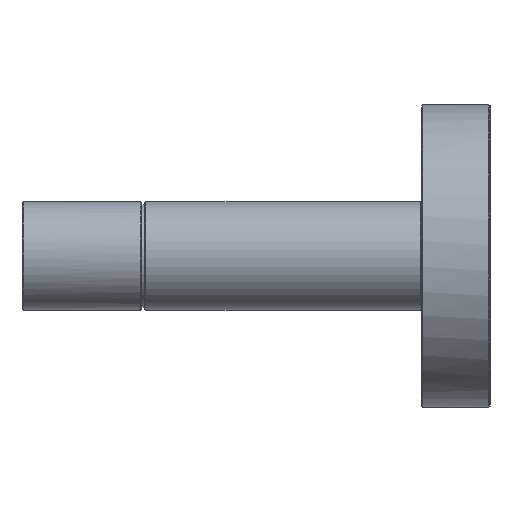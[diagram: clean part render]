
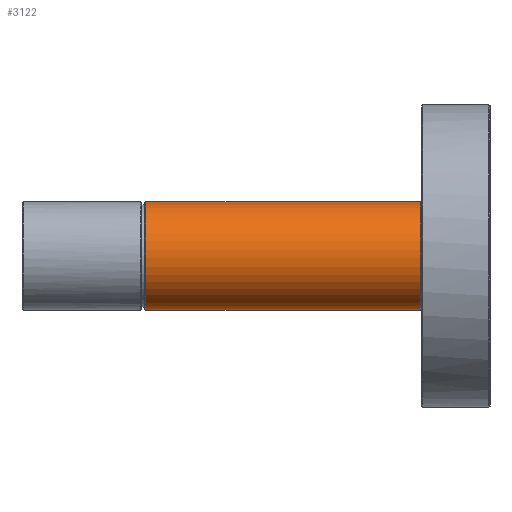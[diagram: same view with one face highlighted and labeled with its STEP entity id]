
A CAD part, left-side view. The second image highlights one B-rep face of the part: STEP entity #3122.
In plain terms, the highlighted cylindrical face has radius 9.5 mm (diameter 19 mm), a partial arc.
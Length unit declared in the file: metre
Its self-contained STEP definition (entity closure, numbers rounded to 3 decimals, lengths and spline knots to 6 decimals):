
#356=EDGE_CURVE('',#357,#360,#362,.F.);
#357=VERTEX_POINT('',#358);
#358=CARTESIAN_POINT('',(-0.2235,0.0122,-0.0095));
#359=CARTESIAN_POINT('',(-0.2235,0.0122,0.0095));
#360=VERTEX_POINT('',#361);
#361=CARTESIAN_POINT('',(-0.2235,0.0122,0.0095));
#362=(B_SPLINE_CURVE(3,(#359,#363,#364,#365),.UNSPECIFIED.,.F.,.U.)B_SPLINE_CURVE_WITH_KNOTS(
  (4,4),(0.0,1.0),.UNSPECIFIED.)BOUNDED_CURVE()CURVE()GEOMETRIC_REPRESENTATION_ITEM(
  )RATIONAL_B_SPLINE_CURVE((1.0,0.333,0.333,1.0)
  )REPRESENTATION_ITEM(''));
#363=CARTESIAN_POINT('',(-0.2425,0.0122,0.0095));
#364=CARTESIAN_POINT('',(-0.2425,0.0122,-0.0095));
#365=CARTESIAN_POINT('',(-0.2235,0.0122,-0.0095));
#410=VERTEX_POINT('',#411);
#411=CARTESIAN_POINT('',(-0.2235,0.0603,-0.0095));
#416=CARTESIAN_POINT('',(-0.2235,0.0603,0.0095));
#418=EDGE_CURVE('',#419,#410,#421,.T.);
#419=VERTEX_POINT('',#420);
#420=CARTESIAN_POINT('',(-0.2235,0.0603,0.0095));
#421=(B_SPLINE_CURVE(3,(#416,#422,#423,#424),.UNSPECIFIED.,.F.,.U.)B_SPLINE_CURVE_WITH_KNOTS(
  (4,4),(0.0,1.0),.UNSPECIFIED.)BOUNDED_CURVE()CURVE()GEOMETRIC_REPRESENTATION_ITEM(
  )RATIONAL_B_SPLINE_CURVE((1.0,0.333,0.333,1.0)
  )REPRESENTATION_ITEM(''));
#422=CARTESIAN_POINT('',(-0.2425,0.0603,0.0095));
#423=CARTESIAN_POINT('',(-0.2425,0.0603,-0.0095));
#424=CARTESIAN_POINT('',(-0.2235,0.0603,-0.0095));
#558=CYLINDRICAL_SURFACE('',#559,0.0095);
#559=AXIS2_PLACEMENT_3D('',#560,#561,#562);
#560=CARTESIAN_POINT('',(-0.2235,0.082,0.0));
#561=DIRECTION('',(0.0,1.0,0.0));
#562=DIRECTION('',(0.0,0.0,1.0));
#573=EDGE_CURVE('',#357,#410,#574,.T.);
#574=LINE('',#575,#576);
#575=CARTESIAN_POINT('',(-0.2235,0.082,-0.0095));
#576=VECTOR('',#577,1.0);
#577=DIRECTION('',(0.0,1.0,0.0));
#586=EDGE_CURVE('',#360,#419,#587,.T.);
#587=LINE('',#588,#589);
#588=CARTESIAN_POINT('',(-0.2235,0.012,0.0095));
#589=VECTOR('',#590,1.0);
#590=DIRECTION('',(0.0,1.0,0.0));
#3120=FACE_OUTER_BOUND('',#3123,.T.);
#3122=ADVANCED_FACE('',(#3120),#558,.T.);
#3123=EDGE_LOOP('',(#3124,#3125,#3126,#3127));
#3124=ORIENTED_EDGE('',*,*,#573,.F.);
#3125=ORIENTED_EDGE('',*,*,#356,.T.);
#3126=ORIENTED_EDGE('',*,*,#586,.T.);
#3127=ORIENTED_EDGE('',*,*,#418,.T.);
